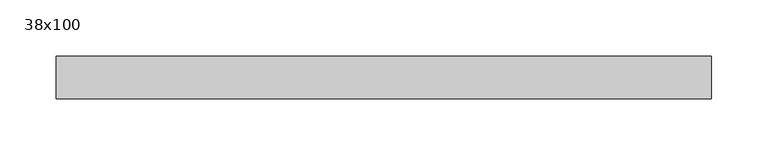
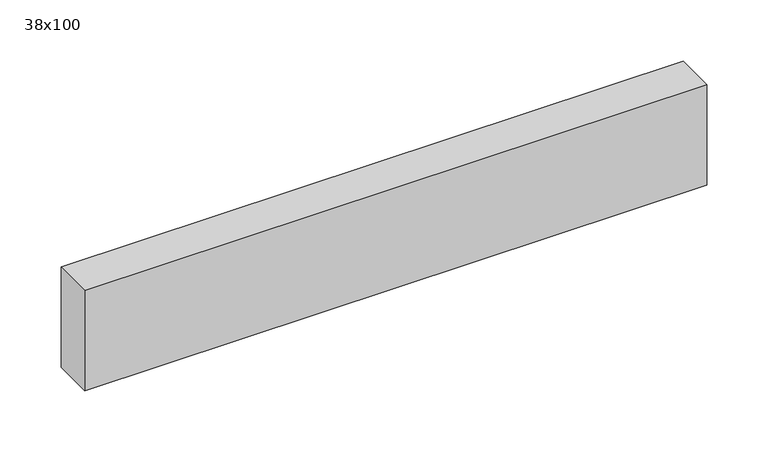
"""IFC4 building model written with IfcOpenShell, lengths in millimetres: beam geometry, Poutre - Bois de construction de dimensions courantes : 38x100."""

from ifc_helpers import new_model, si_unit, frame, origin, place, context, project, spatial, polyline, outline, extrude, source, transform, mapped, element, save


def beam_38x100_48185af6(model_context):
    return source(origin(), model_context, "Body", "SweptSolid", [
        extrude(outline(polyline([(212.5, 19.05), (212.5, -19.05), (-372.5, -19.05), (-372.5, 19.05), (212.5, 19.05)])), frame((0.0, 0.0, -50.0), z_axis=(0.0, 0.0, 1.0), x_axis=(1.0, 0.0, 0.0)), (0.0, 0.0, 1.0), 100.0),
    ])


if __name__ == "__main__":
    model = new_model("IFC4")
    model_context = context("Model", 3, world=origin())
    ifc_project = project(units=[si_unit("LENGTHUNIT", "METRE", prefix="MILLI")], contexts=[model_context])
    site = spatial("IfcSite", under=ifc_project)
    building = spatial("IfcBuilding", under=site)
    placement = place(None, origin())
    beam_38x100_shape = beam_38x100_48185af6(model_context)
    element("IfcBeam", 1, ObjectType="Poutre - Bois de construction de dimensions courantes : 38x100", at=placement, inside=building, context=model_context, shape_type="MappedRepresentation", body=[
        mapped(beam_38x100_shape, transform((0.0, 0.0, 0.0), x_axis=(1.0, 0.0, 0.0), y_axis=(0.0, 1.0, 0.0), z_axis=(0.0, 0.0, 1.0))),
    ])
    save(model, "model.ifc")
